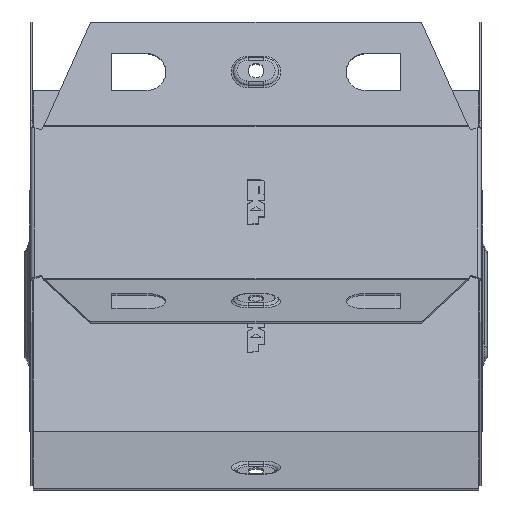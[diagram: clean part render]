
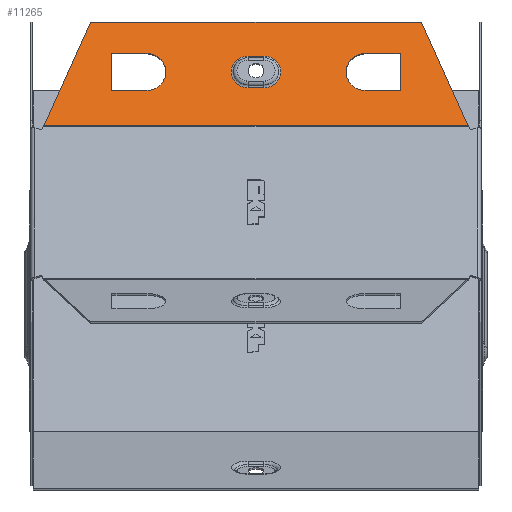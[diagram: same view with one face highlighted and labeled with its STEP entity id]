
A CAD part, front view. The second image highlights one B-rep face of the part: STEP entity #11265.
In plain terms, the highlighted planar face has unit normal (0, -0.924, 0.383).
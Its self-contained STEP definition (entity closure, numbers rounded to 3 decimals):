
#6 = CARTESIAN_POINT ( 'NONE',  ( 3.5, 79.95, 21.903 ) ) ;
#45 = ORIENTED_EDGE ( 'NONE', *, *, #7515, .F. ) ;
#191 = CARTESIAN_POINT ( 'NONE',  ( 94.128, 70.076, -1.934 ) ) ;
#194 = FACE_BOUND ( 'NONE', #3462, .T. ) ;
#241 = AXIS2_PLACEMENT_3D ( 'NONE', #2142, #10399, #12732 ) ;
#338 = EDGE_CURVE ( 'NONE', #12104, #7357, #2698, .T. ) ;
#380 = DIRECTION ( 'NONE',  ( 0., 0.383, 0.924 ) ) ;
#581 = VERTEX_POINT ( 'NONE', #2501 ) ;
#680 = DIRECTION ( 'NONE',  ( -1., 0., 0. ) ) ;
#687 = AXIS2_PLACEMENT_3D ( 'NONE', #6, #8255, #3909 ) ;
#1009 = VECTOR ( 'NONE', #11644, 1000. ) ;
#1080 = DIRECTION ( 'NONE',  ( 1., 0., 0. ) ) ;
#1102 = EDGE_LOOP ( 'NONE', ( #3452, #10805, #6326, #45 ) ) ;
#1143 = DIRECTION ( 'NONE',  ( 1., 0., 0. ) ) ;
#1200 = VECTOR ( 'NONE', #6525, 1000. ) ;
#1817 = ORIENTED_EDGE ( 'NONE', *, *, #11763, .T. ) ;
#1942 = CARTESIAN_POINT ( 'NONE',  ( -49., 83.394, 30.218 ) ) ;
#1943 = LINE ( 'NONE', #5345, #5652 ) ;
#2099 = VERTEX_POINT ( 'NONE', #6000 ) ;
#2142 = CARTESIAN_POINT ( 'NONE',  ( -49., 79.95, 21.903 ) ) ;
#2144 = EDGE_CURVE ( 'NONE', #12138, #2099, #5615, .T. ) ;
#2209 = CIRCLE ( 'NONE', #687, 7.598 ) ;
#2238 = EDGE_CURVE ( 'NONE', #7357, #581, #10780, .T. ) ;
#2397 = CARTESIAN_POINT ( 'NONE',  ( 98.2, 89.134, 44.076 ) ) ;
#2407 = CARTESIAN_POINT ( 'NONE',  ( 64., 76.506, 13.588 ) ) ;
#2443 = ORIENTED_EDGE ( 'NONE', *, *, #14592, .T. ) ;
#2452 = CARTESIAN_POINT ( 'NONE',  ( -3.5, 77.042, 14.883 ) ) ;
#2501 = CARTESIAN_POINT ( 'NONE',  ( -73.5, 89.134, 44.076 ) ) ;
#2520 = CARTESIAN_POINT ( 'NONE',  ( 73.5, 89.134, 44.076 ) ) ;
#2586 = FACE_BOUND ( 'NONE', #5826, .T. ) ;
#2698 = LINE ( 'NONE', #2520, #6969 ) ;
#2704 = ORIENTED_EDGE ( 'NONE', *, *, #6447, .T. ) ;
#2801 = VECTOR ( 'NONE', #14417, 1000. ) ;
#2957 = VECTOR ( 'NONE', #1080, 1000. ) ;
#3027 = CARTESIAN_POINT ( 'NONE',  ( -3.5, 79.95, 21.903 ) ) ;
#3221 = EDGE_CURVE ( 'NONE', #2099, #8912, #14068, .T. ) ;
#3379 = ORIENTED_EDGE ( 'NONE', *, *, #13352, .T. ) ;
#3452 = ORIENTED_EDGE ( 'NONE', *, *, #338, .T. ) ;
#3462 = EDGE_LOOP ( 'NONE', ( #1817, #3379, #6972, #7939 ) ) ;
#3557 = CARTESIAN_POINT ( 'NONE',  ( 64., 83.394, 30.218 ) ) ;
#3909 = DIRECTION ( 'NONE',  ( 0., 0.383, 0.924 ) ) ;
#3917 = DIRECTION ( 'NONE',  ( 0., 0.924, -0.383 ) ) ;
#3992 = VECTOR ( 'NONE', #5544, 1000. ) ;
#4117 = LINE ( 'NONE', #3557, #2957 ) ;
#4319 = CARTESIAN_POINT ( 'NONE',  ( 49., 76.506, 13.588 ) ) ;
#4482 = VERTEX_POINT ( 'NONE', #1942 ) ;
#4515 = DIRECTION ( 'NONE',  ( -1., 0., 0. ) ) ;
#4585 = LINE ( 'NONE', #9250, #14883 ) ;
#4628 = CARTESIAN_POINT ( 'NONE',  ( -64., 76.506, 13.588 ) ) ;
#4748 = EDGE_CURVE ( 'NONE', #8912, #14088, #2209, .T. ) ;
#5042 = VERTEX_POINT ( 'NONE', #4319 ) ;
#5188 = VERTEX_POINT ( 'NONE', #14174 ) ;
#5345 = CARTESIAN_POINT ( 'NONE',  ( 64., 76.506, 13.588 ) ) ;
#5544 = DIRECTION ( 'NONE',  ( 0., -0.383, -0.924 ) ) ;
#5585 = ORIENTED_EDGE ( 'NONE', *, *, #2144, .T. ) ;
#5615 = CIRCLE ( 'NONE', #14267, 7.598 ) ;
#5652 = VECTOR ( 'NONE', #680, 1000. ) ;
#5826 = EDGE_LOOP ( 'NONE', ( #2704, #9462, #2443, #11399 ) ) ;
#5869 = EDGE_CURVE ( 'NONE', #4482, #6479, #9742, .T. ) ;
#6000 = CARTESIAN_POINT ( 'NONE',  ( -3.5, 82.857, 28.923 ) ) ;
#6073 = VECTOR ( 'NONE', #380, 1000. ) ;
#6326 = ORIENTED_EDGE ( 'NONE', *, *, #12362, .T. ) ;
#6447 = EDGE_CURVE ( 'NONE', #14022, #4482, #4585, .T. ) ;
#6457 = CARTESIAN_POINT ( 'NONE',  ( 98.2, 70., -2.118 ) ) ;
#6479 = VERTEX_POINT ( 'NONE', #12817 ) ;
#6525 = DIRECTION ( 'NONE',  ( -1., 0., 0. ) ) ;
#6578 = CARTESIAN_POINT ( 'NONE',  ( 64., 83.394, 30.218 ) ) ;
#6685 = DIRECTION ( 'NONE',  ( 0., 0.924, -0.383 ) ) ;
#6948 = LINE ( 'NONE', #8831, #1200 ) ;
#6969 = VECTOR ( 'NONE', #10762, 1000. ) ;
#6972 = ORIENTED_EDGE ( 'NONE', *, *, #13257, .T. ) ;
#7224 = AXIS2_PLACEMENT_3D ( 'NONE', #6457, #3917, #13417 ) ;
#7227 = VERTEX_POINT ( 'NONE', #7283 ) ;
#7283 = CARTESIAN_POINT ( 'NONE',  ( 49., 83.394, 30.218 ) ) ;
#7357 = VERTEX_POINT ( 'NONE', #8393 ) ;
#7515 = EDGE_CURVE ( 'NONE', #12104, #12283, #6948, .T. ) ;
#7638 = VECTOR ( 'NONE', #9810, 1000. ) ;
#7656 = VECTOR ( 'NONE', #4515, 1000. ) ;
#7905 = LINE ( 'NONE', #8482, #6073 ) ;
#7939 = ORIENTED_EDGE ( 'NONE', *, *, #10297, .T. ) ;
#7967 = DIRECTION ( 'NONE',  ( 0., -0.383, -0.924 ) ) ;
#8089 = LINE ( 'NONE', #14709, #12900 ) ;
#8255 = DIRECTION ( 'NONE',  ( 0., 0.924, -0.383 ) ) ;
#8393 = CARTESIAN_POINT ( 'NONE',  ( 73.5, 89.134, 44.076 ) ) ;
#8482 = CARTESIAN_POINT ( 'NONE',  ( -64., 83.394, 30.218 ) ) ;
#8666 = EDGE_CURVE ( 'NONE', #14088, #12138, #8762, .T. ) ;
#8705 = CIRCLE ( 'NONE', #12936, 9. ) ;
#8762 = LINE ( 'NONE', #10503, #1009 ) ;
#8831 = CARTESIAN_POINT ( 'NONE',  ( 98.2, 70.076, -1.934 ) ) ;
#8912 = VERTEX_POINT ( 'NONE', #13380 ) ;
#9250 = CARTESIAN_POINT ( 'NONE',  ( -64., 83.394, 30.218 ) ) ;
#9462 = ORIENTED_EDGE ( 'NONE', *, *, #5869, .T. ) ;
#9742 = CIRCLE ( 'NONE', #241, 9. ) ;
#9780 = VERTEX_POINT ( 'NONE', #13620 ) ;
#9810 = DIRECTION ( 'NONE',  ( -1., 0., 0. ) ) ;
#10297 = EDGE_CURVE ( 'NONE', #5042, #7227, #8705, .T. ) ;
#10399 = DIRECTION ( 'NONE',  ( 0., 0.924, -0.383 ) ) ;
#10503 = CARTESIAN_POINT ( 'NONE',  ( 3.5, 77.042, 14.883 ) ) ;
#10714 = ORIENTED_EDGE ( 'NONE', *, *, #4748, .T. ) ;
#10762 = DIRECTION ( 'NONE',  ( -0.383, 0.354, 0.854 ) ) ;
#10780 = LINE ( 'NONE', #2397, #7638 ) ;
#10805 = ORIENTED_EDGE ( 'NONE', *, *, #2238, .T. ) ;
#11113 = DIRECTION ( 'NONE',  ( -0.383, -0.354, -0.854 ) ) ;
#11265 = ADVANCED_FACE ( 'NONE', ( #194, #2586, #12937, #13667 ), #13364, .F. ) ;
#11399 = ORIENTED_EDGE ( 'NONE', *, *, #12240, .T. ) ;
#11448 = ORIENTED_EDGE ( 'NONE', *, *, #3221, .T. ) ;
#11644 = DIRECTION ( 'NONE',  ( -1., 0., 0. ) ) ;
#11763 = EDGE_CURVE ( 'NONE', #7227, #9780, #4117, .T. ) ;
#12017 = VERTEX_POINT ( 'NONE', #2407 ) ;
#12046 = CARTESIAN_POINT ( 'NONE',  ( 3.5, 82.857, 28.923 ) ) ;
#12104 = VERTEX_POINT ( 'NONE', #191 ) ;
#12138 = VERTEX_POINT ( 'NONE', #2452 ) ;
#12240 = EDGE_CURVE ( 'NONE', #5188, #14022, #7905, .T. ) ;
#12254 = CARTESIAN_POINT ( 'NONE',  ( 3.5, 77.042, 14.883 ) ) ;
#12283 = VERTEX_POINT ( 'NONE', #13296 ) ;
#12362 = EDGE_CURVE ( 'NONE', #581, #12283, #8089, .T. ) ;
#12446 = LINE ( 'NONE', #4628, #7656 ) ;
#12474 = DIRECTION ( 'NONE',  ( 0., 0.924, -0.383 ) ) ;
#12542 = ORIENTED_EDGE ( 'NONE', *, *, #8666, .T. ) ;
#12685 = CARTESIAN_POINT ( 'NONE',  ( -64., 83.394, 30.218 ) ) ;
#12732 = DIRECTION ( 'NONE',  ( 0., 0.383, 0.924 ) ) ;
#12817 = CARTESIAN_POINT ( 'NONE',  ( -49., 76.506, 13.588 ) ) ;
#12900 = VECTOR ( 'NONE', #11113, 1000. ) ;
#12936 = AXIS2_PLACEMENT_3D ( 'NONE', #14969, #6685, #7967 ) ;
#12937 = FACE_BOUND ( 'NONE', #14477, .T. ) ;
#13257 = EDGE_CURVE ( 'NONE', #12017, #5042, #1943, .T. ) ;
#13296 = CARTESIAN_POINT ( 'NONE',  ( -94.128, 70.076, -1.934 ) ) ;
#13352 = EDGE_CURVE ( 'NONE', #9780, #12017, #14324, .T. ) ;
#13364 = PLANE ( 'NONE',  #7224 ) ;
#13380 = CARTESIAN_POINT ( 'NONE',  ( 3.5, 82.857, 28.923 ) ) ;
#13417 = DIRECTION ( 'NONE',  ( 0., 0.383, 0.924 ) ) ;
#13620 = CARTESIAN_POINT ( 'NONE',  ( 64., 83.394, 30.218 ) ) ;
#13667 = FACE_OUTER_BOUND ( 'NONE', #1102, .T. ) ;
#13675 = DIRECTION ( 'NONE',  ( 0., 0.383, 0.924 ) ) ;
#14022 = VERTEX_POINT ( 'NONE', #12685 ) ;
#14068 = LINE ( 'NONE', #12046, #2801 ) ;
#14088 = VERTEX_POINT ( 'NONE', #12254 ) ;
#14174 = CARTESIAN_POINT ( 'NONE',  ( -64., 76.506, 13.588 ) ) ;
#14267 = AXIS2_PLACEMENT_3D ( 'NONE', #3027, #12474, #13675 ) ;
#14324 = LINE ( 'NONE', #6578, #3992 ) ;
#14417 = DIRECTION ( 'NONE',  ( 1., 0., 0. ) ) ;
#14477 = EDGE_LOOP ( 'NONE', ( #11448, #10714, #12542, #5585 ) ) ;
#14592 = EDGE_CURVE ( 'NONE', #6479, #5188, #12446, .T. ) ;
#14709 = CARTESIAN_POINT ( 'NONE',  ( -95.217, 69.07, -4.363 ) ) ;
#14883 = VECTOR ( 'NONE', #1143, 1000. ) ;
#14969 = CARTESIAN_POINT ( 'NONE',  ( 49., 79.95, 21.903 ) ) ;
